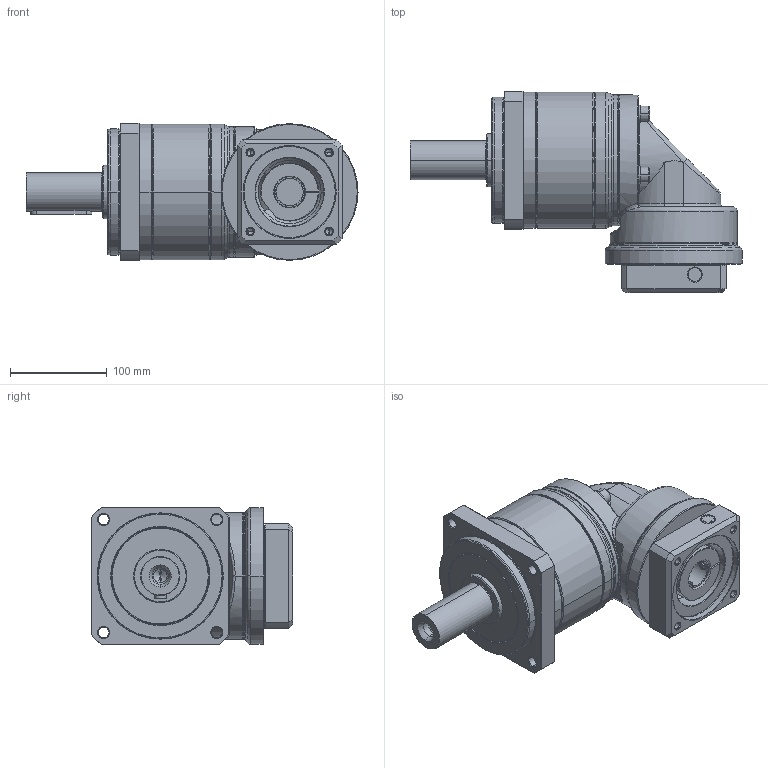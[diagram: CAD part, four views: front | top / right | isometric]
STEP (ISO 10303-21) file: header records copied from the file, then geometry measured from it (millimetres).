
FILE_DESCRIPTION((''),'2;1');
FILE_NAME('PA2R-142_1ST_28-P0411600101_ASM','2016-05-12T',('d01943'),(''),'PRO/ENGINEER BY PARAMETRIC TECHNOLOGY CORPORATION, 2008410','PRO/ENGINEER BY PARAMETRIC TECHNOLOGY CORPORATION, 2008410','');
FILE_SCHEMA(('CONFIG_CONTROL_DESIGN'));
Length unit declared in the file: millimetre
Products named in the file (12): P1327510001; P0250500001; P0350500601; P1349500001; P1017500001; P0713502001; P0503600008; P1350500201; P0411600101; P1702500001; 2111BA10040; PA2R-142_1ST_28-P0411600101_ASM
Assembly tree (14 placements, depth 2):
  PA2R-142_1ST_28-P0411600101_ASM
    P1327510001
    P0250500001
    P0350500601
    P1349500001
    P1017500001
    P0713502001
    P0503600008
    P1350500201
    P0411600101
    P1702500001
    2111BA10040  x4
Bounding box: 342.5 x 207.5 x 142 mm (x, y, z)
Volume: 2627442.6 mm3; surface area: 447199.7 mm2
Topology: 14 solids, 14 shells, 721 faces, 1591 edges, 921 vertices
Faces by surface type: cylinder 212, cone 208, plane 167, torus 102, bspline 32
Entity records: 22960 total; most frequent: CARTESIAN_POINT 9013, DIRECTION 3073, ORIENTED_EDGE 2710, EDGE_CURVE 1355, AXIS2_PLACEMENT_3D 1294, VERTEX_POINT 801, EDGE_LOOP 702, CIRCLE 678
